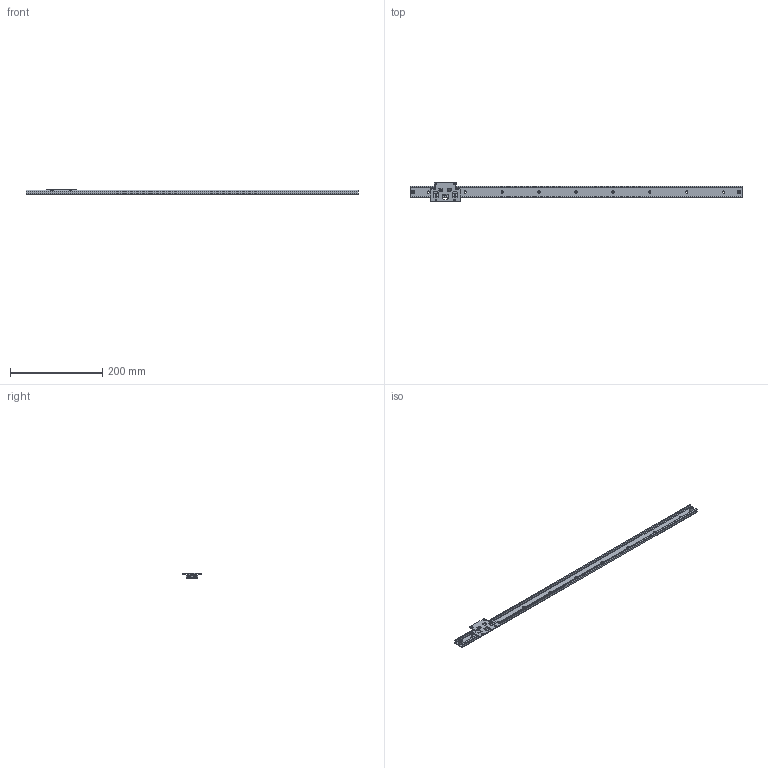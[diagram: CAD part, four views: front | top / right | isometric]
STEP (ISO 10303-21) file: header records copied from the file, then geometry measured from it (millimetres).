
FILE_DESCRIPTION((''),'1');
FILE_NAME('C:/Users/t-inoue/Desktop/25SW0720SS hp.stp','2016-07-29T02:40:25',(''),(''),'Spatial Interop R21 SP3','Kubotek KeyCreator 2011 V10.0.2 (22737)',' ');
FILE_SCHEMA(('automotive_design'));
Length unit declared in the file: millimetre
Products named in the file (442): Unnamed[1]
Bounding box: 720 x 42 x 12 mm (x, y, z)
Surface area: 67584.6 mm2 (no closed solid volume)
Topology: 0 solids, 442 shells, 442 faces, 1910 edges, 1753 vertices
Faces by surface type: plane 192, cylinder 136, cone 105, torus 8, sphere 1
Full cylindrical faces by diameter (mm): 1.6 x1, 3.2 x6, 3.3 x4, 3.5 x1, 4 x10, 5 x6, 5.5 x4, 5.6 x2, 7 x6, 8.2 x2
Entity records: 37994 total; most frequent: CARTESIAN_POINT 4600, DIRECTION 4337, PRESENTATION_STYLE_ASSIGNMENT 1768, COLOUR_RGB 1768, AXIS2_PLACEMENT_3D 1735, ORIENTED_EDGE 1726, EDGE_CURVE 1726, VERTEX_POINT 1726
